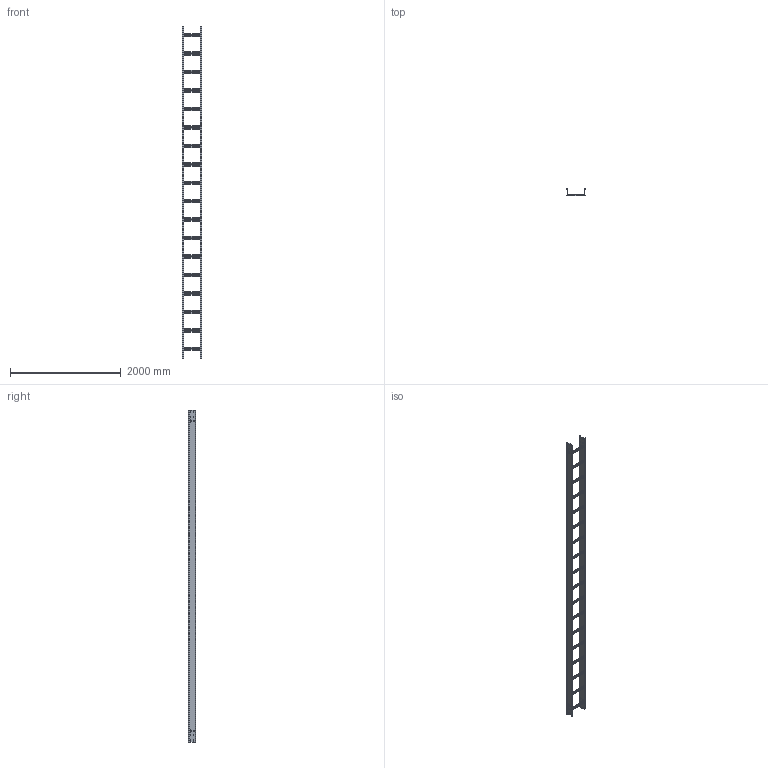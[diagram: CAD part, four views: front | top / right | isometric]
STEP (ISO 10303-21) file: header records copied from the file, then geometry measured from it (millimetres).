
FILE_DESCRIPTION (( 'STEP AP203' ), '1' );
FILE_NAME ('N3 L 300 6m.STEP', '2024-08-29T04:00:36', ( '' ), ( '' ), 'SwSTEP 2.0', 'SolidWorks 2023', '' );
FILE_SCHEMA (( 'CONFIG_CONTROL_DESIGN' ));
Length unit declared in the file: millimetre
Products named in the file (3): Ladder Rung_Ladder Rung -  300mm; Ladder Rails_Nema  3 - 6m; N3 L 300 6m
Assembly tree (20 placements, depth 2):
  N3 L 300 6m
    Ladder Rails_Nema  3 - 6m  x2
    Ladder Rung_Ladder Rung -  300mm  x18
Bounding box: 354 x 131 x 6000 mm (x, y, z)
Volume: 4214659.9 mm3; surface area: 5351800.7 mm2
Topology: 20 solids, 20 shells, 2288 faces, 5988 edges, 3784 vertices
Faces by surface type: plane 1920, cylinder 196, bspline 172
Entity records: 18547 total; most frequent: CARTESIAN_POINT 7547, ORIENTED_EDGE 2276, DIRECTION 1756, EDGE_CURVE 1138, LINE 898, VECTOR 898, VERTEX_POINT 740, EDGE_LOOP 488
